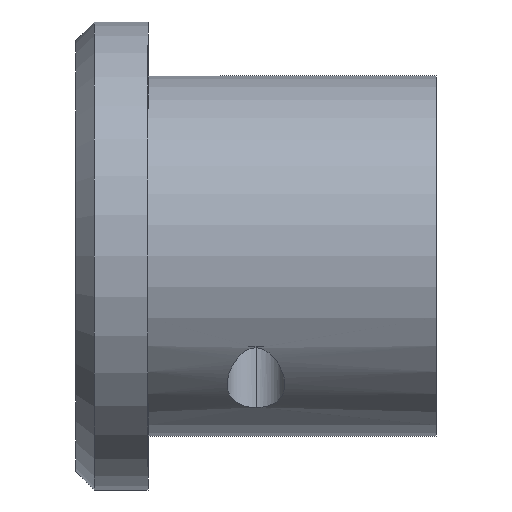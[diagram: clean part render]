
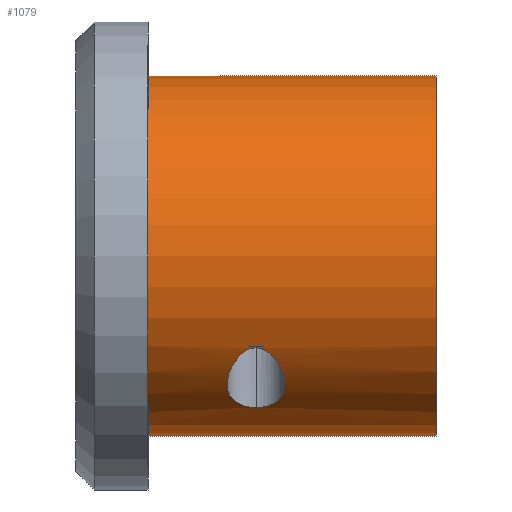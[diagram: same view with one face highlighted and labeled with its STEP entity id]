
A CAD part, left-side view. The second image highlights one B-rep face of the part: STEP entity #1079.
In plain terms, the highlighted cylindrical face has radius 10 mm (diameter 20 mm), a partial arc.
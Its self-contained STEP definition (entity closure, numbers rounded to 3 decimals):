
#7 = VERTEX_POINT ( 'NONE', #14 ) ;
#14 = CARTESIAN_POINT ( 'NONE',  ( 0., -20., -10. ) ) ;
#19 = EDGE_LOOP ( 'NONE', ( #307, #102 ) ) ;
#30 = CARTESIAN_POINT ( 'NONE',  ( -7.496, -11.531, -6.623 ) ) ;
#37 = DIRECTION ( 'NONE',  ( 0., 1., 0. ) ) ;
#43 = CARTESIAN_POINT ( 'NONE',  ( 0., 0., 10. ) ) ;
#44 = CARTESIAN_POINT ( 'NONE',  ( -7.498, -8.47, -6.621 ) ) ;
#77 = VERTEX_POINT ( 'NONE', #661 ) ;
#102 = ORIENTED_EDGE ( 'NONE', *, *, #271, .T. ) ;
#132 = CARTESIAN_POINT ( 'NONE',  ( -5.4, -10.129, -8.417 ) ) ;
#147 = CARTESIAN_POINT ( 'NONE',  ( -5.523, -9.373, -8.337 ) ) ;
#150 = FACE_BOUND ( 'NONE', #19, .T. ) ;
#154 = AXIS2_PLACEMENT_3D ( 'NONE', #700, #1156, #220 ) ;
#157 = CARTESIAN_POINT ( 'NONE',  ( -8.487, -9.399, -5.29 ) ) ;
#170 = VERTEX_POINT ( 'NONE', #302 ) ;
#194 = B_SPLINE_CURVE_WITH_KNOTS ( 'NONE', 3,
 ( #712, #701, #987, #915, #147, #419, #908, #519, #1186, #1075, #337, #249, #905, #240, #44, #806, #816, #913, #1082, #511, #332, #157, #1174, #244, #605, #699 ),
 .UNSPECIFIED., .F., .F.,
 ( 4, 2, 2, 2, 2, 2, 2, 2, 2, 2, 2, 2, 4 ),
 ( 0.006, 0.007, 0.007, 0.008, 0.008, 0.009, 0.009, 0.01, 0.011, 0.011, 0.012, 0.012, 0.012 ),
 .UNSPECIFIED. ) ;
#206 = LINE ( 'NONE', #587, #1193 ) ;
#218 = CARTESIAN_POINT ( 'NONE',  ( -5.693, -10.956, -8.222 ) ) ;
#220 = DIRECTION ( 'NONE',  ( 0., 0., 1. ) ) ;
#223 = CARTESIAN_POINT ( 'NONE',  ( -8.583, -10.26, -5.131 ) ) ;
#225 = VECTOR ( 'NONE', #682, 1000. ) ;
#234 = CARTESIAN_POINT ( 'NONE',  ( -8.347, -10.89, -5.51 ) ) ;
#240 = CARTESIAN_POINT ( 'NONE',  ( -7.326, -8.423, -6.812 ) ) ;
#244 = CARTESIAN_POINT ( 'NONE',  ( -8.583, -9.74, -5.131 ) ) ;
#249 = CARTESIAN_POINT ( 'NONE',  ( -6.779, -8.403, -7.356 ) ) ;
#270 = CARTESIAN_POINT ( 'NONE',  ( 0., -20., 0. ) ) ;
#271 = EDGE_CURVE ( 'NONE', #801, #1042, #194, .T. ) ;
#302 = CARTESIAN_POINT ( 'NONE',  ( 0., -4., -10. ) ) ;
#306 = CARTESIAN_POINT ( 'NONE',  ( -7.817, -11.387, -6.242 ) ) ;
#307 = ORIENTED_EDGE ( 'NONE', *, *, #538, .T. ) ;
#316 = CARTESIAN_POINT ( 'NONE',  ( -8.526, -10.495, -5.225 ) ) ;
#317 = DIRECTION ( 'NONE',  ( 0., 0., 1. ) ) ;
#332 = CARTESIAN_POINT ( 'NONE',  ( -8.394, -9.207, -5.436 ) ) ;
#337 = CARTESIAN_POINT ( 'NONE',  ( -6.492, -8.479, -7.607 ) ) ;
#340 = ORIENTED_EDGE ( 'NONE', *, *, #1080, .F. ) ;
#368 = DIRECTION ( 'NONE',  ( 0., 0., 1. ) ) ;
#402 = CARTESIAN_POINT ( 'NONE',  ( -5.416, -10.26, -8.406 ) ) ;
#416 = CARTESIAN_POINT ( 'NONE',  ( -5.4, -10., -8.417 ) ) ;
#419 = CARTESIAN_POINT ( 'NONE',  ( -5.694, -9.044, -8.222 ) ) ;
#455 = EDGE_LOOP ( 'NONE', ( #653, #1167, #641, #340 ) ) ;
#499 = CARTESIAN_POINT ( 'NONE',  ( -6.968, -11.61, -7.177 ) ) ;
#501 = CARTESIAN_POINT ( 'NONE',  ( -7.963, -11.291, -6.053 ) ) ;
#503 = CARTESIAN_POINT ( 'NONE',  ( -8.6, -10., -5.103 ) ) ;
#511 = CARTESIAN_POINT ( 'NONE',  ( -8.34, -9.121, -5.518 ) ) ;
#515 = EDGE_CURVE ( 'NONE', #77, #878, #893, .T. ) ;
#519 = CARTESIAN_POINT ( 'NONE',  ( -6.118, -8.66, -7.911 ) ) ;
#538 = EDGE_CURVE ( 'NONE', #1042, #801, #1203, .T. ) ;
#580 = CARTESIAN_POINT ( 'NONE',  ( -6.777, -11.597, -7.357 ) ) ;
#587 = CARTESIAN_POINT ( 'NONE',  ( 0., 0., -10. ) ) ;
#605 = CARTESIAN_POINT ( 'NONE',  ( -8.6, -9.869, -5.103 ) ) ;
#607 = EDGE_CURVE ( 'NONE', #7, #170, #206, .T. ) ;
#612 = CYLINDRICAL_SURFACE ( 'NONE', #154, 10. ) ;
#641 = ORIENTED_EDGE ( 'NONE', *, *, #515, .T. ) ;
#653 = ORIENTED_EDGE ( 'NONE', *, *, #607, .F. ) ;
#661 = CARTESIAN_POINT ( 'NONE',  ( 0., -20., 10. ) ) ;
#682 = DIRECTION ( 'NONE',  ( 0., 1., 0. ) ) ;
#684 = CIRCLE ( 'NONE', #739, 10. ) ;
#694 = CARTESIAN_POINT ( 'NONE',  ( -5.853, -11.138, -8.111 ) ) ;
#699 = CARTESIAN_POINT ( 'NONE',  ( -8.6, -10., -5.103 ) ) ;
#700 = CARTESIAN_POINT ( 'NONE',  ( 0., 0., 0. ) ) ;
#701 = CARTESIAN_POINT ( 'NONE',  ( -5.4, -9.871, -8.417 ) ) ;
#712 = CARTESIAN_POINT ( 'NONE',  ( -5.4, -10., -8.417 ) ) ;
#718 = CIRCLE ( 'NONE', #1018, 10. ) ;
#725 = EDGE_CURVE ( 'NONE', #7, #77, #718, .T. ) ;
#739 = AXIS2_PLACEMENT_3D ( 'NONE', #1170, #1062, #317 ) ;
#743 = DIRECTION ( 'NONE',  ( 0., 1., 0. ) ) ;
#782 = CARTESIAN_POINT ( 'NONE',  ( -6.398, -11.495, -7.689 ) ) ;
#789 = CARTESIAN_POINT ( 'NONE',  ( -7.327, -11.577, -6.811 ) ) ;
#795 = CARTESIAN_POINT ( 'NONE',  ( -8.6, -10., -5.103 ) ) ;
#801 = VERTEX_POINT ( 'NONE', #1025 ) ;
#806 = CARTESIAN_POINT ( 'NONE',  ( -7.815, -8.612, -6.243 ) ) ;
#816 = CARTESIAN_POINT ( 'NONE',  ( -7.964, -8.71, -6.052 ) ) ;
#856 = CARTESIAN_POINT ( 'NONE',  ( 0., -4., 10. ) ) ;
#874 = FACE_OUTER_BOUND ( 'NONE', #455, .T. ) ;
#878 = VERTEX_POINT ( 'NONE', #856 ) ;
#882 = CARTESIAN_POINT ( 'NONE',  ( -8.6, -10.131, -5.103 ) ) ;
#885 = CARTESIAN_POINT ( 'NONE',  ( -5.522, -10.625, -8.338 ) ) ;
#893 = LINE ( 'NONE', #43, #225 ) ;
#897 = CARTESIAN_POINT ( 'NONE',  ( -8.227, -11.042, -5.689 ) ) ;
#905 = CARTESIAN_POINT ( 'NONE',  ( -6.967, -8.39, -7.179 ) ) ;
#908 = CARTESIAN_POINT ( 'NONE',  ( -5.853, -8.863, -8.111 ) ) ;
#913 = CARTESIAN_POINT ( 'NONE',  ( -8.162, -8.897, -5.778 ) ) ;
#915 = CARTESIAN_POINT ( 'NONE',  ( -5.477, -9.493, -8.367 ) ) ;
#971 = CARTESIAN_POINT ( 'NONE',  ( -5.477, -10.508, -8.367 ) ) ;
#982 = CARTESIAN_POINT ( 'NONE',  ( -8.486, -10.602, -5.29 ) ) ;
#987 = CARTESIAN_POINT ( 'NONE',  ( -5.416, -9.74, -8.406 ) ) ;
#1018 = AXIS2_PLACEMENT_3D ( 'NONE', #270, #743, #368 ) ;
#1025 = CARTESIAN_POINT ( 'NONE',  ( -5.4, -10., -8.417 ) ) ;
#1042 = VERTEX_POINT ( 'NONE', #503 ) ;
#1062 = DIRECTION ( 'NONE',  ( 0., 1., 0. ) ) ;
#1064 = CARTESIAN_POINT ( 'NONE',  ( -6.205, -11.406, -7.845 ) ) ;
#1075 = CARTESIAN_POINT ( 'NONE',  ( -6.398, -8.514, -7.687 ) ) ;
#1079 = ADVANCED_FACE ( 'NONE', ( #874, #150 ), #612, .T. ) ;
#1080 = EDGE_CURVE ( 'NONE', #170, #878, #684, .T. ) ;
#1082 = CARTESIAN_POINT ( 'NONE',  ( -8.224, -8.966, -5.689 ) ) ;
#1156 = DIRECTION ( 'NONE',  ( 0., 1., 0. ) ) ;
#1167 = ORIENTED_EDGE ( 'NONE', *, *, #725, .T. ) ;
#1170 = CARTESIAN_POINT ( 'NONE',  ( 0., -4., 0. ) ) ;
#1174 = CARTESIAN_POINT ( 'NONE',  ( -8.527, -9.506, -5.225 ) ) ;
#1186 = CARTESIAN_POINT ( 'NONE',  ( -6.211, -8.604, -7.838 ) ) ;
#1193 = VECTOR ( 'NONE', #37, 1000. ) ;
#1203 = B_SPLINE_CURVE_WITH_KNOTS ( 'NONE', 3,
 ( #795, #882, #223, #316, #982, #234, #897, #501, #306, #30, #789, #499, #580, #782, #1064, #694, #218, #885, #971, #402, #132, #416 ),
 .UNSPECIFIED., .F., .F.,
 ( 4, 2, 2, 2, 2, 2, 2, 2, 2, 2, 4 ),
 ( 0., 0., 0.001, 0.002, 0.002, 0.003, 0.004, 0.005, 0.005, 0.006, 0.006 ),
 .UNSPECIFIED. ) ;
